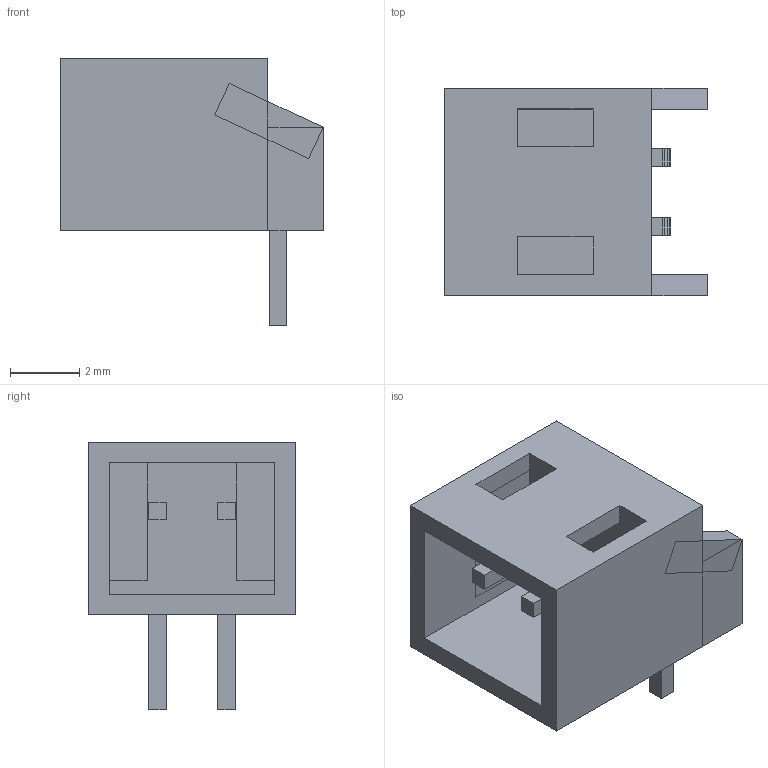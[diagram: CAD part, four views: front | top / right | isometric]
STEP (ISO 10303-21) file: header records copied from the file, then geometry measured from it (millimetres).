
FILE_DESCRIPTION(('FreeCAD Model'),'2;1');
FILE_NAME('Open CASCADE Shape Model','2021-06-28T19:00:44',('Author'),( ''),'Open CASCADE STEP processor 7.5','FreeCAD','Unknown');
FILE_SCHEMA(('AUTOMOTIVE_DESIGN { 1 0 10303 214 1 1 1 1 }'));
Length unit declared in the file: millimetre
Products named in the file (1): Group003
Bounding box: 7.6 x 6 x 7.75 mm (x, y, z)
Volume: 109.9 mm3; surface area: 327 mm2
Topology: 1 solids, 1 shells, 101 faces, 282 edges, 186 vertices
Faces by surface type: plane 101
Entity records: 6929 total; most frequent: CARTESIAN_POINT 1210, DIRECTION 974, LINE 770, VECTOR 770, ORIENTED_EDGE 564, PCURVE 564, DEFINITIONAL_REPRESENTATION 564, EDGE_CURVE 282
